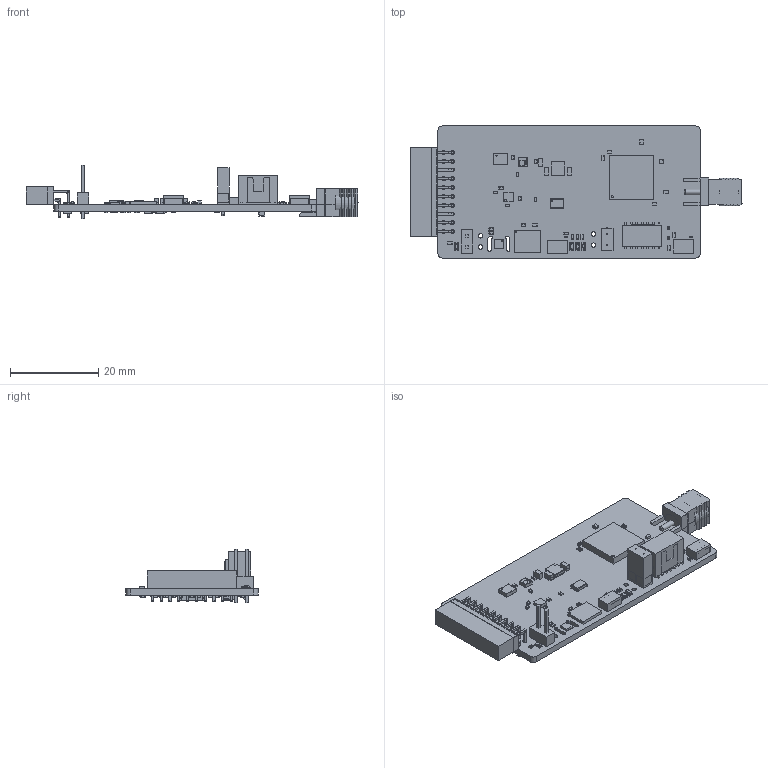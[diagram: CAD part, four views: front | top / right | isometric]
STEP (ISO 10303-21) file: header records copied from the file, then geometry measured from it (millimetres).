
FILE_DESCRIPTION(('Open CASCADE Model'),'2;1');
FILE_NAME('Open CASCADE Shape Model','2023-11-15T09:33:23',('Author'),( 'Open CASCADE'),'Open CASCADE STEP processor 6.8','Open CASCADE 6.8' ,'Unknown');
FILE_SCHEMA(('AUTOMOTIVE_DESIGN { 1 0 10303 214 1 1 1 1 }'));
Length unit declared in the file: millimetre
Products named in the file (230): PCB; Board; Open CASCADE STEP translator 6.8 2.1.1; C13; C0402; 6468912128; Extruded; U3; 6467921424; Cylinder; 6467921184; SB26; R0402; 6467149296; SB23; SB25; C23; SB31; R0603; 6467150096; SB30; SB29; SB27; SB11; SB12; 6467150496; SB32; SB38; R5; 6468913888; SB15; SB14; U9; 0201; 6467918624; SB2; SB17; R11; CN3; FTSH-107-01-L-DV-K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
Assembly tree (414 placements, depth 4):
  PCB
    Board
      Open CASCADE STEP translator 6.8 2.1.1
    C13
      C0402
      6468912128
        Extruded
    U3
      6467921424
        Cylinder
      6467921184
        Extruded
    SB26
      R0402
      6467149296
        Extruded
    SB23
      R0402
      6467149296
        Extruded
    SB25
      R0402
      6467149296
        Extruded
    C23
      C0402
      6468912128
        Extruded
    SB31
      R0603
      6467150096
        Extruded
    SB30
      R0603
      6467150096
        Extruded
    SB29
      R0603
      6467150096
        Extruded
    SB27
      R0603
      6467150096
        Extruded
    SB11
      R0603
      6467150096
        Extruded
    SB12
      R0402
      6467150496
        Extruded
    SB32
      R0402
      6467150496
        Extruded
    SB38
      R0603
      6467150096
        Extruded
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Bounding box: 75.42 x 30 x 12.05 mm (x, y, z)
Volume: 5176.7 mm3; surface area: 9571.8 mm2
Topology: 386 solids, 389 shells, 13786 faces, 32445 edges, 18880 vertices
Faces by surface type: plane 6206, cylinder 3412, bspline 2459, sphere 1378, torus 234, revolution 96, cone 1
Full cylindrical faces by diameter (mm): 0.2 x1, 0.3 x1, 0.4 x1, 0.5 x2, 0.9 x20, 0.97 x2, 1 x8, 1.27 x2, 4.1 x1, 4.25 x1, 4.63 x1, 5.35 x2, 6.33 x1
Entity records: 118863 total; most frequent: CARTESIAN_POINT 27277, ORIENTED_EDGE 15440, DIRECTION 14714, EDGE_CURVE 7722, LINE 6628, VECTOR 6628, VERTEX_POINT 4986, AXIS2_PLACEMENT_3D 4039
